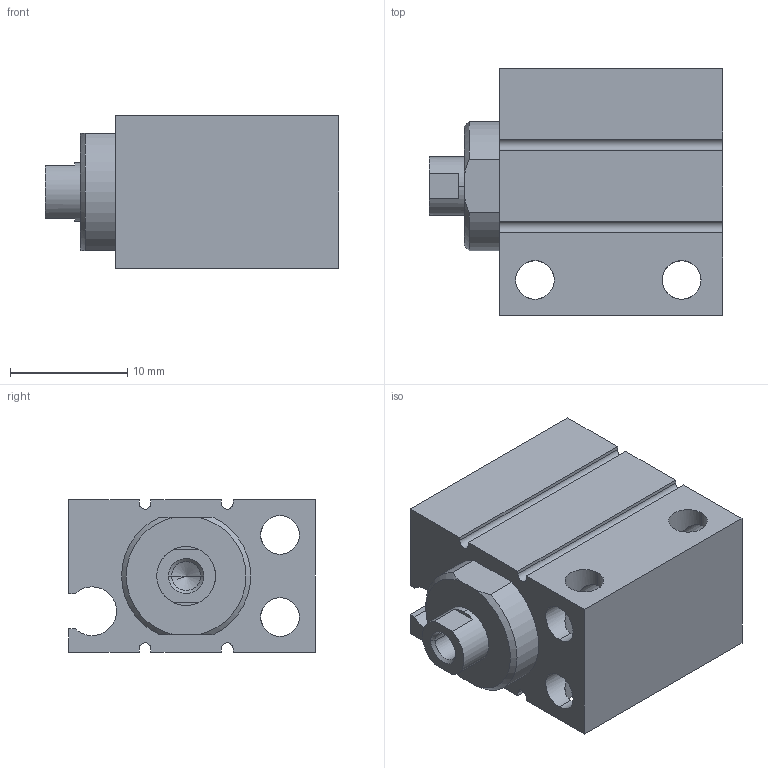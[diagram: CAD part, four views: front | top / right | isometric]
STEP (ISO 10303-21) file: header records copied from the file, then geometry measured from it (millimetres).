
FILE_DESCRIPTION (( 'STEP AP203' ), '1' );
FILE_NAME ('CLJB8-6.STEP', '2020-07-30T18:44:39', ( '' ), ( '' ), 'SwSTEP 2.0', 'SolidWorks 2019', '' );
FILE_SCHEMA (( 'CONFIG_CONTROL_DESIGN' ));
Length unit declared in the file: millimetre
Products named in the file (1): CLJB8-6
Bounding box: 25 x 21 x 13 mm (x, y, z)
Volume: 4499.8 mm3; surface area: 3401.1 mm2
Topology: 2 solids, 2 shells, 96 faces, 252 edges, 153 vertices
Faces by surface type: cylinder 49, plane 33, cone 14
Entity records: 2995 total; most frequent: CARTESIAN_POINT 604, ORIENTED_EDGE 492, DIRECTION 482, EDGE_CURVE 246, AXIS2_PLACEMENT_3D 175, VERTEX_POINT 153, VECTOR 132, LINE 132
